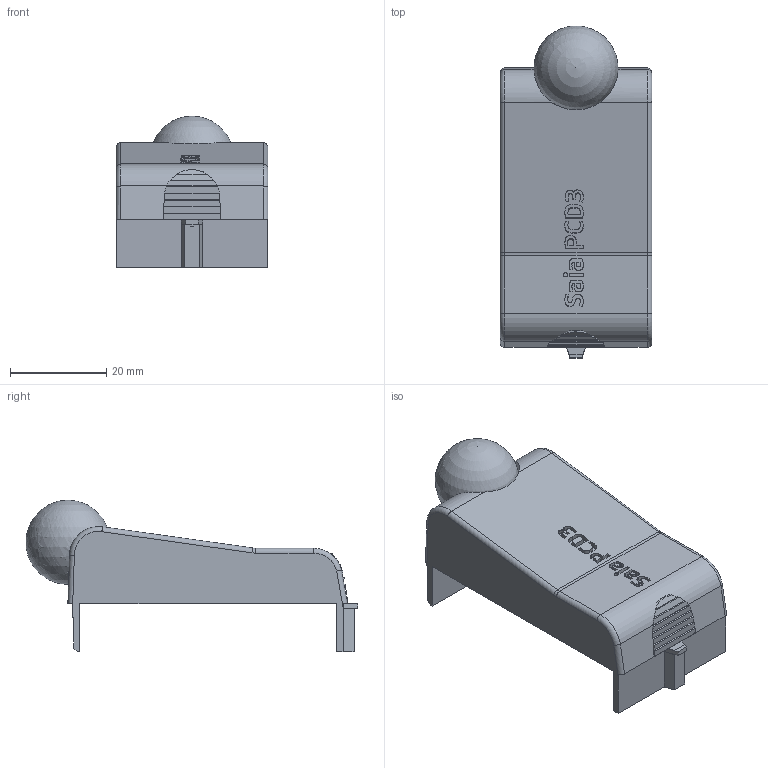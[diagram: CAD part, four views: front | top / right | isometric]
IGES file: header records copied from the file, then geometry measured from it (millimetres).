
Global section: file name: SBC_IGES_ACC_410475150_PCD3-IO-Cover_2021-09-05.iges; native system: CAD Exchanger; preprocessor: CAD Exchanger 3.9.1 (cadexchanger.com); date: 20210906.213639; units: millimetre
Bounding box: 31.5 x 68.88 x 31.5 mm (x, y, z)
Volume: 11964.6 mm3; surface area: 10918.9 mm2
Topology: 2 solids, 2 shells, 211 faces, 561 edges, 366 vertices
Faces by surface type: plane 98, extrusion 82, cylinder 21, torus 6, sphere 4
Full cylindrical faces by diameter (mm): 2 x1
